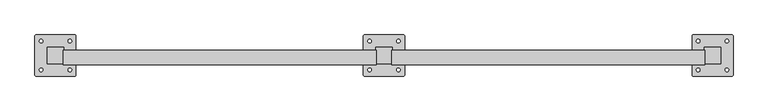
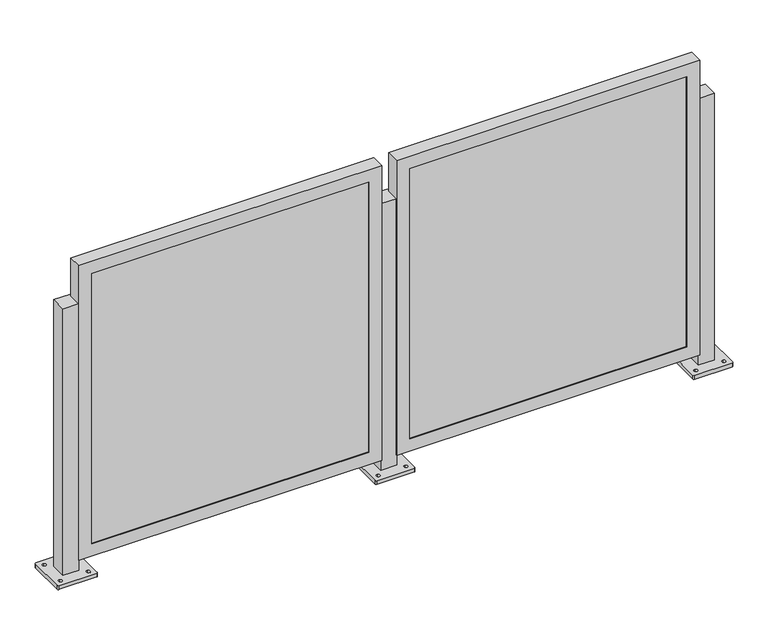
"""IFC4 building model written with IfcOpenShell, lengths in millimetres: railing geometry, Railing - Amico Architectural - Perforated Railing - Venetian."""

from ifc_helpers import new_model, si_unit, frame, origin, place, context, project, spatial, polyline, circle_curve, outline, extrude, faceted_brep, source, transform, mapped, element, save
from ifc_brep_helpers import plane_surface, cylinder_surface, revolved_surface, advanced_brep


def railing_542db5f6(model_context):
    return source(origin(), model_context, "Body", "SolidModel", [
        advanced_brep(
        [(-11298.0306556, -6822.178618, 914.4), (-11298.0306556, -6872.978618, 914.4), (-11247.2306556, -6872.978618, 914.4), (-11247.2306556, -6822.178618, 914.4), (-11336.1306557, -6907.903577, 0.0), (-11336.1306557, -6787.2536591, 0.0), (-11332.9556276, -6784.0786309, 0.0), (-11212.3056836, -6784.0786309, 0.0), (-11209.1306554, -6787.2536591, 0.0), (-11209.1306554, -6907.903577, 0.0), (-11212.3056836, -6911.0786052, 0.0), (-11332.9556276, -6911.0786052, 0.0), (-11317.0806431, -6897.5848727, 0.0), (-11317.0806431, -6886.4723602, 0.0), (-11317.080654, -6808.6848683, 0.0), (-11317.080654, -6797.5723867, 0.0), (-11228.1806422, -6897.5848711, 0.0), (-11228.1806422, -6886.4723605, 0.0), (-11228.1806531, -6808.6848668, 0.0), (-11228.1806531, -6797.572387, 0.0), (-11298.0306556, -6822.178618, 12.7), (-11298.0306556, -6872.978618, 12.7), (-11247.2306556, -6872.978618, 12.7), (-11247.2306556, -6822.178618, 12.7), (-11336.1306557, -6907.903577, 12.7), (-11332.9556276, -6911.0786052, 12.7), (-11212.3056836, -6911.0786052, 12.7), (-11209.1306554, -6907.903577, 12.7), (-11209.1306554, -6787.2536591, 12.7), (-11212.3056836, -6784.0786309, 12.7), (-11332.9556276, -6784.0786309, 12.7), (-11336.1306557, -6787.2536591, 12.7), (-11317.0806431, -6897.5848727, 12.7), (-11317.0806431, -6886.4723602, 12.7), (-11317.080654, -6808.6848683, 12.7), (-11317.080654, -6797.5723867, 12.7), (-11228.1806422, -6897.5848711, 12.7), (-11228.1806422, -6886.4723605, 12.7), (-11228.1806531, -6808.6848668, 12.7), (-11228.1806531, -6797.572387, 12.7)],
        [
            (0, 1),
            (1, 2),
            (2, 3),
            (3, 0),
            (4, 5),
            (5, 6, circle_curve(frame((-11332.9556276, -6787.2536591, 0.0), z_axis=(0.0, 0.0, -1.0), x_axis=(0.0, 1.0, 0.0)), 3.1750282)),
            (6, 7),
            (7, 8, circle_curve(frame((-11212.3056836, -6787.2536591, 0.0), z_axis=(0.0, 0.0, -1.0), x_axis=(0.0, 1.0, 0.0)), 3.1750282)),
            (8, 9),
            (9, 10, circle_curve(frame((-11212.3056836, -6907.903577, 0.0), z_axis=(0.0, 0.0, -1.0), x_axis=(0.0, 1.0, 0.0)), 3.1750282)),
            (10, 11),
            (11, 4, circle_curve(frame((-11332.9556276, -6907.903577, 0.0), z_axis=(0.0, 0.0, -1.0), x_axis=(0.0, 1.0, 0.0)), 3.1750282)),
            (12, 13, circle_curve(frame((-11317.0806431, -6892.0286164, 0.0), z_axis=(0.0, 0.0, 1.0), x_axis=(0.0, 1.0, 0.0)), 5.5562562)),
            (13, 12, circle_curve(frame((-11317.0806431, -6892.0286164, 0.0), z_axis=(0.0, 0.0, 1.0), x_axis=(0.0, 1.0, 0.0)), 5.5562562)),
            (14, 15, circle_curve(frame((-11317.080654, -6803.1286275, 0.0), z_axis=(0.0, 0.0, 1.0), x_axis=(0.0, 1.0, 0.0)), 5.5562408)),
            (15, 14, circle_curve(frame((-11317.080654, -6803.1286275, 0.0), z_axis=(0.0, 0.0, 1.0), x_axis=(0.0, 1.0, 0.0)), 5.5562408)),
            (16, 17, circle_curve(frame((-11228.1806422, -6892.0286158, 0.0), z_axis=(0.0, 0.0, 1.0), x_axis=(0.0, 1.0, 0.0)), 5.5562553)),
            (17, 16, circle_curve(frame((-11228.1806422, -6892.0286158, 0.0), z_axis=(0.0, 0.0, 1.0), x_axis=(0.0, 1.0, 0.0)), 5.5562553)),
            (18, 19, circle_curve(frame((-11228.1806531, -6803.1286269, 0.0), z_axis=(0.0, 0.0, 1.0), x_axis=(0.0, 1.0, 0.0)), 5.5562399)),
            (19, 18, circle_curve(frame((-11228.1806531, -6803.1286269, 0.0), z_axis=(0.0, 0.0, 1.0), x_axis=(0.0, 1.0, 0.0)), 5.5562399)),
            (0, 20),
            (20, 21),
            (21, 1),
            (21, 22),
            (22, 2),
            (22, 23),
            (23, 3),
            (23, 20),
            (24, 25, circle_curve(frame((-11332.9556276, -6907.903577, 12.7), z_axis=(0.0, 0.0, 1.0), x_axis=(0.0, 1.0, 0.0)), 3.1750282)),
            (25, 26),
            (26, 27, circle_curve(frame((-11212.3056836, -6907.903577, 12.7), z_axis=(0.0, 0.0, 1.0), x_axis=(0.0, 1.0, 0.0)), 3.1750282)),
            (27, 28),
            (28, 29, circle_curve(frame((-11212.3056836, -6787.2536591, 12.7), z_axis=(0.0, 0.0, 1.0), x_axis=(0.0, 1.0, 0.0)), 3.1750282)),
            (29, 30),
            (30, 31, circle_curve(frame((-11332.9556276, -6787.2536591, 12.7), z_axis=(0.0, 0.0, 1.0), x_axis=(0.0, 1.0, 0.0)), 3.1750282)),
            (31, 24),
            (32, 33, circle_curve(frame((-11317.0806431, -6892.0286164, 12.7), z_axis=(0.0, 0.0, -1.0), x_axis=(0.0, 1.0, 0.0)), 5.5562562)),
            (33, 32, circle_curve(frame((-11317.0806431, -6892.0286164, 12.7), z_axis=(0.0, 0.0, -1.0), x_axis=(0.0, 1.0, 0.0)), 5.5562562)),
            (34, 35, circle_curve(frame((-11317.080654, -6803.1286275, 12.7), z_axis=(0.0, 0.0, -1.0), x_axis=(0.0, 1.0, 0.0)), 5.5562408)),
            (35, 34, circle_curve(frame((-11317.080654, -6803.1286275, 12.7), z_axis=(0.0, 0.0, -1.0), x_axis=(0.0, 1.0, 0.0)), 5.5562408)),
            (36, 37, circle_curve(frame((-11228.1806422, -6892.0286158, 12.7), z_axis=(0.0, 0.0, -1.0), x_axis=(0.0, 1.0, 0.0)), 5.5562553)),
            (37, 36, circle_curve(frame((-11228.1806422, -6892.0286158, 12.7), z_axis=(0.0, 0.0, -1.0), x_axis=(0.0, 1.0, 0.0)), 5.5562553)),
            (38, 39, circle_curve(frame((-11228.1806531, -6803.1286269, 12.7), z_axis=(0.0, 0.0, -1.0), x_axis=(0.0, 1.0, 0.0)), 5.5562399)),
            (39, 38, circle_curve(frame((-11228.1806531, -6803.1286269, 12.7), z_axis=(0.0, 0.0, -1.0), x_axis=(0.0, 1.0, 0.0)), 5.5562399)),
            (24, 4),
            (11, 25),
            (10, 26),
            (9, 27),
            (8, 28),
            (7, 29),
            (6, 30),
            (5, 31),
            (32, 12),
            (13, 33),
            (34, 14),
            (15, 35),
            (36, 16),
            (17, 37),
            (38, 18),
            (19, 39),
        ],
        [
            plane_surface(frame((-11298.0306556, -6872.978618, 914.4), z_axis=(0.0, 0.0, 1.0), x_axis=(0.0, -1.0, 0.0))),
            plane_surface(frame((-11298.0306556, -6872.978618, 0.0), z_axis=(0.0, 0.0, -1.0), x_axis=(0.0, 1.0, 0.0))),
            plane_surface(frame((-11298.0306556, -6822.178618, 914.4), z_axis=(-1.0, 0.0, 0.0), x_axis=(0.0, 0.0, -1.0))),
            plane_surface(frame((-11298.0306556, -6872.978618, 914.4), z_axis=(0.0, -1.0, 0.0), x_axis=(0.0, 0.0, -1.0))),
            plane_surface(frame((-11247.2306556, -6872.978618, 914.4), z_axis=(1.0, 0.0, 0.0), x_axis=(0.0, 0.0, -1.0))),
            plane_surface(frame((-11247.2306556, -6822.178618, 914.4), z_axis=(0.0, 1.0, 0.0), x_axis=(0.0, 0.0, -1.0))),
            plane_surface(frame((-11332.9556276, -6904.7285488, 12.7), z_axis=(0.0, 0.0, 1.0), x_axis=(-1.0, 0.0, 0.0))),
            cylinder_surface(frame((-11332.9556276, -6907.903577, 0.0), z_axis=(0.0, 0.0, 1.0), x_axis=(0.0, 1.0, 0.0)), 3.1750282),
            plane_surface(frame((-11332.9556276, -6911.0786052, 12.7), z_axis=(1.1945386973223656e-12, -1.0, 0.0), x_axis=(0.0, 0.0, -1.0))),
            cylinder_surface(frame((-11212.3056836, -6907.903577, 0.0), z_axis=(0.0, 0.0, 1.0), x_axis=(0.0, 1.0, 0.0)), 3.1750282),
            plane_surface(frame((-11209.1306554, -6907.903577, 12.7), z_axis=(1.0, 0.0, 0.0), x_axis=(0.0, 0.0, -1.0))),
            cylinder_surface(frame((-11212.3056836, -6787.2536591, 0.0), z_axis=(0.0, 0.0, 1.0), x_axis=(0.0, 1.0, 0.0)), 3.1750282),
            plane_surface(frame((-11212.3056836, -6784.0786309, 12.7), z_axis=(-1.1946088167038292e-12, 1.0, 0.0), x_axis=(0.0, 0.0, -1.0))),
            cylinder_surface(frame((-11332.9556276, -6787.2536591, 0.0), z_axis=(0.0, 0.0, 1.0), x_axis=(0.0, 1.0, 0.0)), 3.1750282),
            plane_surface(frame((-11336.1306557, -6787.2536591, 12.7), z_axis=(-1.0, 0.0, 0.0), x_axis=(0.0, 0.0, -1.0))),
            revolved_surface(polyline([(-11317.0806431, -6886.4723602, 0.0), (-11317.0806431, -6886.4723602, 12.7)]), (-11317.0806431, -6892.0286164, 0.0), (0.0, 0.0, -1.0)),
            revolved_surface(polyline([(-11317.080654, -6797.572386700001, 0.0), (-11317.080654, -6797.572386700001, 12.7)]), (-11317.080654, -6803.1286275, 0.0), (0.0, 0.0, -1.0)),
            revolved_surface(polyline([(-11228.1806422, -6886.4723605, 0.0), (-11228.1806422, -6886.4723605, 12.7)]), (-11228.1806422, -6892.0286158, 0.0), (0.0, 0.0, -1.0)),
            revolved_surface(polyline([(-11228.1806531, -6797.572387, 0.0), (-11228.1806531, -6797.572387, 12.7)]), (-11228.1806531, -6803.1286269, 0.0), (0.0, 0.0, -1.0)),
        ],
        [
            (0, [[1, 2, 3, 4]]),
            (1, [[5, 6, 7, 8, 9, 10, 11, 12], [13, 14], [15, 16], [17, 18], [19, 20]]),
            (2, [[-1, 21, 22, 23]]),
            (3, [[-2, -23, 24, 25]]),
            (4, [[-3, -25, 26, 27]]),
            (5, [[-4, -27, 28, -21]]),
            (6, [[29, 30, 31, 32, 33, 34, 35, 36], [-22, -28, -26, -24], [37, 38], [39, 40], [41, 42], [43, 44]]),
            (7, [[-29, 45, -12, 46]]),
            (8, [[-30, -46, -11, 47]]),
            (9, [[-31, -47, -10, 48]]),
            (10, [[-32, -48, -9, 49]]),
            (11, [[-33, -49, -8, 50]]),
            (12, [[-34, -50, -7, 51]]),
            (13, [[-35, -51, -6, 52]]),
            (14, [[-36, -52, -5, -45]]),
            (15, [[-37, 53, -14, 54]]),
            (15, [[-38, -54, -13, -53]]),
            (16, [[-39, 55, -16, 56]]),
            (16, [[-40, -56, -15, -55]]),
            (17, [[-41, 57, -18, 58]]),
            (17, [[-42, -58, -17, -57]]),
            (18, [[-43, 59, -20, 60]]),
            (18, [[-44, -60, -19, -59]]),
        ],
    ),
        faceted_brep([(-12264.435109, -6875.721818, 47.625), (-11296.060109, -6875.721818, 47.625), (-11296.060109, -6875.721818, 1044.575), (-12264.435109, -6875.721818, 1044.575), (-12223.160109, -6875.721818, 1003.3), (-11337.335109, -6875.721818, 1003.3), (-11337.335109, -6875.721818, 88.9), (-12223.160109, -6875.721818, 88.9), (-12223.160109, -6872.978618, 1003.3), (-12223.160109, -6872.978618, 88.9), (-12264.435109, -6831.8485215, 1044.575), (-12264.435109, -6831.8485215, 47.625), (-12261.260109, -6831.8485215, 1041.4), (-12261.260109, -6872.978618, 1041.4), (-12261.260109, -6872.978618, 50.8), (-12261.260109, -6831.8485215, 50.8), (-11337.335109, -6872.978618, 88.9), (-11296.060109, -6831.8485215, 47.625), (-11299.235109, -6872.978618, 50.8), (-11299.235109, -6831.8485215, 50.8), (-11337.335109, -6872.978618, 1003.3), (-11296.060109, -6831.8485215, 1044.575), (-11299.235109, -6872.978618, 1041.4), (-11299.235109, -6831.8485215, 1041.4)], [[[0, 1, 2, 3], [4, 5, 6, 7]], [[8, 4, 7, 9]], [[3, 10, 11, 0]], [[12, 13, 14, 15]], [[9, 7, 6, 16]], [[0, 11, 17, 1]], [[15, 14, 18, 19]], [[16, 6, 5, 20]], [[1, 17, 21, 2]], [[19, 18, 22, 23]], [[20, 5, 4, 8]], [[10, 21, 17, 11], [15, 19, 23, 12]], [[2, 21, 10, 3]], [[13, 22, 18, 14], [9, 16, 20, 8]], [[23, 22, 13, 12]]]),
        extrude(outline(polyline([(-12261.260109, -6863.453618), (-11299.235109, -6863.453618), (-11299.235109, -6872.978618), (-12261.260109, -6872.978618), (-12261.260109, -6863.453618)])), frame((0.0, 0.0, 50.8), z_axis=(0.0, 0.0, 1.0), x_axis=(1.0, 0.0, 0.0)), (0.0, 0.0, 1.0), 990.6),
        advanced_brep(
        [(-12314.0306556, -6822.178618, 914.4), (-12314.0306556, -6872.978618, 914.4), (-12263.2306556, -6872.978618, 914.4), (-12263.2306556, -6822.178618, 914.4), (-12352.1306557, -6907.903577, 0.0), (-12352.1306557, -6787.2536591, 0.0), (-12348.9556276, -6784.0786309, 0.0), (-12228.3056836, -6784.0786309, 0.0), (-12225.1306554, -6787.2536591, 0.0), (-12225.1306554, -6907.903577, 0.0), (-12228.3056836, -6911.0786052, 0.0), (-12348.9556276, -6911.0786052, 0.0), (-12333.0806431, -6897.5848727, 0.0), (-12333.0806431, -6886.4723602, 0.0), (-12333.080654, -6808.6848683, 0.0), (-12333.080654, -6797.5723867, 0.0), (-12244.1806422, -6897.5848711, 0.0), (-12244.1806422, -6886.4723605, 0.0), (-12244.1806531, -6808.6848668, 0.0), (-12244.1806531, -6797.572387, 0.0), (-12314.0306556, -6822.178618, 12.7), (-12314.0306556, -6872.978618, 12.7), (-12263.2306556, -6872.978618, 12.7), (-12263.2306556, -6822.178618, 12.7), (-12352.1306557, -6907.903577, 12.7), (-12348.9556276, -6911.0786052, 12.7), (-12228.3056836, -6911.0786052, 12.7), (-12225.1306554, -6907.903577, 12.7), (-12225.1306554, -6787.2536591, 12.7), (-12228.3056836, -6784.0786309, 12.7), (-12348.9556276, -6784.0786309, 12.7), (-12352.1306557, -6787.2536591, 12.7), (-12333.0806431, -6897.5848727, 12.7), (-12333.0806431, -6886.4723602, 12.7), (-12333.080654, -6808.6848683, 12.7), (-12333.080654, -6797.5723867, 12.7), (-12244.1806422, -6897.5848711, 12.7), (-12244.1806422, -6886.4723605, 12.7), (-12244.1806531, -6808.6848668, 12.7), (-12244.1806531, -6797.572387, 12.7)],
        [
            (0, 1),
            (1, 2),
            (2, 3),
            (3, 0),
            (4, 5),
            (5, 6, circle_curve(frame((-12348.9556276, -6787.2536591, 0.0), z_axis=(0.0, 0.0, -1.0), x_axis=(0.0, 1.0, 0.0)), 3.1750282)),
            (6, 7),
            (7, 8, circle_curve(frame((-12228.3056836, -6787.2536591, 0.0), z_axis=(0.0, 0.0, -1.0), x_axis=(0.0, 1.0, 0.0)), 3.1750282)),
            (8, 9),
            (9, 10, circle_curve(frame((-12228.3056836, -6907.903577, 0.0), z_axis=(0.0, 0.0, -1.0), x_axis=(0.0, 1.0, 0.0)), 3.1750282)),
            (10, 11),
            (11, 4, circle_curve(frame((-12348.9556276, -6907.903577, 0.0), z_axis=(0.0, 0.0, -1.0), x_axis=(0.0, 1.0, 0.0)), 3.1750282)),
            (12, 13, circle_curve(frame((-12333.0806431, -6892.0286164, 0.0), z_axis=(0.0, 0.0, 1.0), x_axis=(0.0, 1.0, 0.0)), 5.5562562)),
            (13, 12, circle_curve(frame((-12333.0806431, -6892.0286164, 0.0), z_axis=(0.0, 0.0, 1.0), x_axis=(0.0, 1.0, 0.0)), 5.5562562)),
            (14, 15, circle_curve(frame((-12333.080654, -6803.1286275, 0.0), z_axis=(0.0, 0.0, 1.0), x_axis=(0.0, 1.0, 0.0)), 5.5562408)),
            (15, 14, circle_curve(frame((-12333.080654, -6803.1286275, 0.0), z_axis=(0.0, 0.0, 1.0), x_axis=(0.0, 1.0, 0.0)), 5.5562408)),
            (16, 17, circle_curve(frame((-12244.1806422, -6892.0286158, 0.0), z_axis=(0.0, 0.0, 1.0), x_axis=(0.0, 1.0, 0.0)), 5.5562553)),
            (17, 16, circle_curve(frame((-12244.1806422, -6892.0286158, 0.0), z_axis=(0.0, 0.0, 1.0), x_axis=(0.0, 1.0, 0.0)), 5.5562553)),
            (18, 19, circle_curve(frame((-12244.1806531, -6803.1286269, 0.0), z_axis=(0.0, 0.0, 1.0), x_axis=(0.0, 1.0, 0.0)), 5.5562399)),
            (19, 18, circle_curve(frame((-12244.1806531, -6803.1286269, 0.0), z_axis=(0.0, 0.0, 1.0), x_axis=(0.0, 1.0, 0.0)), 5.5562399)),
            (0, 20),
            (20, 21),
            (21, 1),
            (21, 22),
            (22, 2),
            (22, 23),
            (23, 3),
            (23, 20),
            (24, 25, circle_curve(frame((-12348.9556276, -6907.903577, 12.7), z_axis=(0.0, 0.0, 1.0), x_axis=(0.0, 1.0, 0.0)), 3.1750282)),
            (25, 26),
            (26, 27, circle_curve(frame((-12228.3056836, -6907.903577, 12.7), z_axis=(0.0, 0.0, 1.0), x_axis=(0.0, 1.0, 0.0)), 3.1750282)),
            (27, 28),
            (28, 29, circle_curve(frame((-12228.3056836, -6787.2536591, 12.7), z_axis=(0.0, 0.0, 1.0), x_axis=(0.0, 1.0, 0.0)), 3.1750282)),
            (29, 30),
            (30, 31, circle_curve(frame((-12348.9556276, -6787.2536591, 12.7), z_axis=(0.0, 0.0, 1.0), x_axis=(0.0, 1.0, 0.0)), 3.1750282)),
            (31, 24),
            (32, 33, circle_curve(frame((-12333.0806431, -6892.0286164, 12.7), z_axis=(0.0, 0.0, -1.0), x_axis=(0.0, 1.0, 0.0)), 5.5562562)),
            (33, 32, circle_curve(frame((-12333.0806431, -6892.0286164, 12.7), z_axis=(0.0, 0.0, -1.0), x_axis=(0.0, 1.0, 0.0)), 5.5562562)),
            (34, 35, circle_curve(frame((-12333.080654, -6803.1286275, 12.7), z_axis=(0.0, 0.0, -1.0), x_axis=(0.0, 1.0, 0.0)), 5.5562408)),
            (35, 34, circle_curve(frame((-12333.080654, -6803.1286275, 12.7), z_axis=(0.0, 0.0, -1.0), x_axis=(0.0, 1.0, 0.0)), 5.5562408)),
            (36, 37, circle_curve(frame((-12244.1806422, -6892.0286158, 12.7), z_axis=(0.0, 0.0, -1.0), x_axis=(0.0, 1.0, 0.0)), 5.5562553)),
            (37, 36, circle_curve(frame((-12244.1806422, -6892.0286158, 12.7), z_axis=(0.0, 0.0, -1.0), x_axis=(0.0, 1.0, 0.0)), 5.5562553)),
            (38, 39, circle_curve(frame((-12244.1806531, -6803.1286269, 12.7), z_axis=(0.0, 0.0, -1.0), x_axis=(0.0, 1.0, 0.0)), 5.5562399)),
            (39, 38, circle_curve(frame((-12244.1806531, -6803.1286269, 12.7), z_axis=(0.0, 0.0, -1.0), x_axis=(0.0, 1.0, 0.0)), 5.5562399)),
            (24, 4),
            (11, 25),
            (10, 26),
            (9, 27),
            (8, 28),
            (7, 29),
            (6, 30),
            (5, 31),
            (32, 12),
            (13, 33),
            (34, 14),
            (15, 35),
            (36, 16),
            (17, 37),
            (38, 18),
            (19, 39),
        ],
        [
            plane_surface(frame((-12314.0306556, -6872.978618, 914.4), z_axis=(0.0, 0.0, 1.0), x_axis=(0.0, -1.0, 0.0))),
            plane_surface(frame((-12314.0306556, -6872.978618, 0.0), z_axis=(0.0, 0.0, -1.0), x_axis=(0.0, 1.0, 0.0))),
            plane_surface(frame((-12314.0306556, -6822.178618, 914.4), z_axis=(-1.0, 0.0, 0.0), x_axis=(0.0, 0.0, -1.0))),
            plane_surface(frame((-12314.0306556, -6872.978618, 914.4), z_axis=(0.0, -1.0, 0.0), x_axis=(0.0, 0.0, -1.0))),
            plane_surface(frame((-12263.2306556, -6872.978618, 914.4), z_axis=(1.0, 0.0, 0.0), x_axis=(0.0, 0.0, -1.0))),
            plane_surface(frame((-12263.2306556, -6822.178618, 914.4), z_axis=(0.0, 1.0, 0.0), x_axis=(0.0, 0.0, -1.0))),
            plane_surface(frame((-12348.9556276, -6904.7285488, 12.7), z_axis=(0.0, 0.0, 1.0), x_axis=(-1.0, 0.0, 0.0))),
            cylinder_surface(frame((-12348.9556276, -6907.903577, 0.0), z_axis=(0.0, 0.0, 1.0), x_axis=(0.0, 1.0, 0.0)), 3.1750282),
            plane_surface(frame((-12348.9556276, -6911.0786052, 12.7), z_axis=(1.1945386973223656e-12, -1.0, 0.0), x_axis=(0.0, 0.0, -1.0))),
            cylinder_surface(frame((-12228.3056836, -6907.903577, 0.0), z_axis=(0.0, 0.0, 1.0), x_axis=(0.0, 1.0, 0.0)), 3.1750282),
            plane_surface(frame((-12225.1306554, -6907.903577, 12.7), z_axis=(1.0, 0.0, 0.0), x_axis=(0.0, 0.0, -1.0))),
            cylinder_surface(frame((-12228.3056836, -6787.2536591, 0.0), z_axis=(0.0, 0.0, 1.0), x_axis=(0.0, 1.0, 0.0)), 3.1750282),
            plane_surface(frame((-12228.3056836, -6784.0786309, 12.7), z_axis=(-1.1946088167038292e-12, 1.0, 0.0), x_axis=(0.0, 0.0, -1.0))),
            cylinder_surface(frame((-12348.9556276, -6787.2536591, 0.0), z_axis=(0.0, 0.0, 1.0), x_axis=(0.0, 1.0, 0.0)), 3.1750282),
            plane_surface(frame((-12352.1306557, -6787.2536591, 12.7), z_axis=(-1.0, 0.0, 0.0), x_axis=(0.0, 0.0, -1.0))),
            revolved_surface(polyline([(-12333.0806431, -6886.4723602, 0.0), (-12333.0806431, -6886.4723602, 12.7)]), (-12333.0806431, -6892.0286164, 0.0), (0.0, 0.0, -1.0)),
            revolved_surface(polyline([(-12333.080654, -6797.572386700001, 0.0), (-12333.080654, -6797.572386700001, 12.7)]), (-12333.080654, -6803.1286275, 0.0), (0.0, 0.0, -1.0)),
            revolved_surface(polyline([(-12244.1806422, -6886.4723605, 0.0), (-12244.1806422, -6886.4723605, 12.7)]), (-12244.1806422, -6892.0286158, 0.0), (0.0, 0.0, -1.0)),
            revolved_surface(polyline([(-12244.1806531, -6797.572387, 0.0), (-12244.1806531, -6797.572387, 12.7)]), (-12244.1806531, -6803.1286269, 0.0), (0.0, 0.0, -1.0)),
        ],
        [
            (0, [[1, 2, 3, 4]]),
            (1, [[5, 6, 7, 8, 9, 10, 11, 12], [13, 14], [15, 16], [17, 18], [19, 20]]),
            (2, [[-1, 21, 22, 23]]),
            (3, [[-2, -23, 24, 25]]),
            (4, [[-3, -25, 26, 27]]),
            (5, [[-4, -27, 28, -21]]),
            (6, [[29, 30, 31, 32, 33, 34, 35, 36], [-22, -28, -26, -24], [37, 38], [39, 40], [41, 42], [43, 44]]),
            (7, [[-29, 45, -12, 46]]),
            (8, [[-30, -46, -11, 47]]),
            (9, [[-31, -47, -10, 48]]),
            (10, [[-32, -48, -9, 49]]),
            (11, [[-33, -49, -8, 50]]),
            (12, [[-34, -50, -7, 51]]),
            (13, [[-35, -51, -6, 52]]),
            (14, [[-36, -52, -5, -45]]),
            (15, [[-37, 53, -14, 54]]),
            (15, [[-38, -54, -13, -53]]),
            (16, [[-39, 55, -16, 56]]),
            (16, [[-40, -56, -15, -55]]),
            (17, [[-41, 57, -18, 58]]),
            (17, [[-42, -58, -17, -57]]),
            (18, [[-43, 59, -20, 60]]),
            (18, [[-44, -60, -19, -59]]),
        ],
    ),
        faceted_brep([(-13280.435109, -6875.721818, 47.625), (-12312.060109, -6875.721818, 47.625), (-12312.060109, -6875.721818, 1044.575), (-13280.435109, -6875.721818, 1044.575), (-13239.160109, -6875.721818, 1003.3), (-12353.335109, -6875.721818, 1003.3), (-12353.335109, -6875.721818, 88.9), (-13239.160109, -6875.721818, 88.9), (-13239.160109, -6872.978618, 1003.3), (-13239.160109, -6872.978618, 88.9), (-13280.435109, -6831.8485215, 1044.575), (-13280.435109, -6831.8485215, 47.625), (-13277.260109, -6831.8485215, 1041.4), (-13277.260109, -6872.978618, 1041.4), (-13277.260109, -6872.978618, 50.8), (-13277.260109, -6831.8485215, 50.8), (-12353.335109, -6872.978618, 88.9), (-12312.060109, -6831.8485215, 47.625), (-12315.235109, -6872.978618, 50.8), (-12315.235109, -6831.8485215, 50.8), (-12353.335109, -6872.978618, 1003.3), (-12312.060109, -6831.8485215, 1044.575), (-12315.235109, -6872.978618, 1041.4), (-12315.235109, -6831.8485215, 1041.4)], [[[0, 1, 2, 3], [4, 5, 6, 7]], [[8, 4, 7, 9]], [[3, 10, 11, 0]], [[12, 13, 14, 15]], [[9, 7, 6, 16]], [[0, 11, 17, 1]], [[15, 14, 18, 19]], [[16, 6, 5, 20]], [[1, 17, 21, 2]], [[19, 18, 22, 23]], [[20, 5, 4, 8]], [[10, 21, 17, 11], [15, 19, 23, 12]], [[2, 21, 10, 3]], [[13, 22, 18, 14], [9, 16, 20, 8]], [[23, 22, 13, 12]]]),
        extrude(outline(polyline([(-13277.260109, -6863.453618), (-12315.235109, -6863.453618), (-12315.235109, -6872.978618), (-13277.260109, -6872.978618), (-13277.260109, -6863.453618)])), frame((0.0, 0.0, 50.8), z_axis=(0.0, 0.0, 1.0), x_axis=(1.0, 0.0, 0.0)), (0.0, 0.0, 1.0), 990.6),
        advanced_brep(
        [(-13330.0306556, -6822.178618, 914.4), (-13330.0306556, -6872.978618, 914.4), (-13279.2306556, -6872.978618, 914.4), (-13279.2306556, -6822.178618, 914.4), (-13368.1306557, -6907.903577, 0.0), (-13368.1306557, -6787.2536591, 0.0), (-13364.9556276, -6784.0786309, 0.0), (-13244.3056836, -6784.0786309, 0.0), (-13241.1306554, -6787.2536591, 0.0), (-13241.1306554, -6907.903577, 0.0), (-13244.3056836, -6911.0786052, 0.0), (-13364.9556276, -6911.0786052, 0.0), (-13349.0806431, -6897.5848727, 0.0), (-13349.0806431, -6886.4723602, 0.0), (-13349.080654, -6808.6848683, 0.0), (-13349.080654, -6797.5723867, 0.0), (-13260.1806422, -6897.5848711, 0.0), (-13260.1806422, -6886.4723605, 0.0), (-13260.1806531, -6808.6848668, 0.0), (-13260.1806531, -6797.572387, 0.0), (-13330.0306556, -6822.178618, 12.7), (-13330.0306556, -6872.978618, 12.7), (-13279.2306556, -6872.978618, 12.7), (-13279.2306556, -6822.178618, 12.7), (-13368.1306557, -6907.903577, 12.7), (-13364.9556276, -6911.0786052, 12.7), (-13244.3056836, -6911.0786052, 12.7), (-13241.1306554, -6907.903577, 12.7), (-13241.1306554, -6787.2536591, 12.7), (-13244.3056836, -6784.0786309, 12.7), (-13364.9556276, -6784.0786309, 12.7), (-13368.1306557, -6787.2536591, 12.7), (-13349.0806431, -6897.5848727, 12.7), (-13349.0806431, -6886.4723602, 12.7), (-13349.080654, -6808.6848683, 12.7), (-13349.080654, -6797.5723867, 12.7), (-13260.1806422, -6897.5848711, 12.7), (-13260.1806422, -6886.4723605, 12.7), (-13260.1806531, -6808.6848668, 12.7), (-13260.1806531, -6797.572387, 12.7)],
        [
            (0, 1),
            (1, 2),
            (2, 3),
            (3, 0),
            (4, 5),
            (5, 6, circle_curve(frame((-13364.9556276, -6787.2536591, 0.0), z_axis=(0.0, 0.0, -1.0), x_axis=(0.0, 1.0, 0.0)), 3.1750282)),
            (6, 7),
            (7, 8, circle_curve(frame((-13244.3056836, -6787.2536591, 0.0), z_axis=(0.0, 0.0, -1.0), x_axis=(0.0, 1.0, 0.0)), 3.1750282)),
            (8, 9),
            (9, 10, circle_curve(frame((-13244.3056836, -6907.903577, 0.0), z_axis=(0.0, 0.0, -1.0), x_axis=(0.0, 1.0, 0.0)), 3.1750282)),
            (10, 11),
            (11, 4, circle_curve(frame((-13364.9556276, -6907.903577, 0.0), z_axis=(0.0, 0.0, -1.0), x_axis=(0.0, 1.0, 0.0)), 3.1750282)),
            (12, 13, circle_curve(frame((-13349.0806431, -6892.0286164, 0.0), z_axis=(0.0, 0.0, 1.0), x_axis=(0.0, 1.0, 0.0)), 5.5562562)),
            (13, 12, circle_curve(frame((-13349.0806431, -6892.0286164, 0.0), z_axis=(0.0, 0.0, 1.0), x_axis=(0.0, 1.0, 0.0)), 5.5562562)),
            (14, 15, circle_curve(frame((-13349.080654, -6803.1286275, 0.0), z_axis=(0.0, 0.0, 1.0), x_axis=(0.0, 1.0, 0.0)), 5.5562408)),
            (15, 14, circle_curve(frame((-13349.080654, -6803.1286275, 0.0), z_axis=(0.0, 0.0, 1.0), x_axis=(0.0, 1.0, 0.0)), 5.5562408)),
            (16, 17, circle_curve(frame((-13260.1806422, -6892.0286158, 0.0), z_axis=(0.0, 0.0, 1.0), x_axis=(0.0, 1.0, 0.0)), 5.5562553)),
            (17, 16, circle_curve(frame((-13260.1806422, -6892.0286158, 0.0), z_axis=(0.0, 0.0, 1.0), x_axis=(0.0, 1.0, 0.0)), 5.5562553)),
            (18, 19, circle_curve(frame((-13260.1806531, -6803.1286269, 0.0), z_axis=(0.0, 0.0, 1.0), x_axis=(0.0, 1.0, 0.0)), 5.5562399)),
            (19, 18, circle_curve(frame((-13260.1806531, -6803.1286269, 0.0), z_axis=(0.0, 0.0, 1.0), x_axis=(0.0, 1.0, 0.0)), 5.5562399)),
            (0, 20),
            (20, 21),
            (21, 1),
            (21, 22),
            (22, 2),
            (22, 23),
            (23, 3),
            (23, 20),
            (24, 25, circle_curve(frame((-13364.9556276, -6907.903577, 12.7), z_axis=(0.0, 0.0, 1.0), x_axis=(0.0, 1.0, 0.0)), 3.1750282)),
            (25, 26),
            (26, 27, circle_curve(frame((-13244.3056836, -6907.903577, 12.7), z_axis=(0.0, 0.0, 1.0), x_axis=(0.0, 1.0, 0.0)), 3.1750282)),
            (27, 28),
            (28, 29, circle_curve(frame((-13244.3056836, -6787.2536591, 12.7), z_axis=(0.0, 0.0, 1.0), x_axis=(0.0, 1.0, 0.0)), 3.1750282)),
            (29, 30),
            (30, 31, circle_curve(frame((-13364.9556276, -6787.2536591, 12.7), z_axis=(0.0, 0.0, 1.0), x_axis=(0.0, 1.0, 0.0)), 3.1750282)),
            (31, 24),
            (32, 33, circle_curve(frame((-13349.0806431, -6892.0286164, 12.7), z_axis=(0.0, 0.0, -1.0), x_axis=(0.0, 1.0, 0.0)), 5.5562562)),
            (33, 32, circle_curve(frame((-13349.0806431, -6892.0286164, 12.7), z_axis=(0.0, 0.0, -1.0), x_axis=(0.0, 1.0, 0.0)), 5.5562562)),
            (34, 35, circle_curve(frame((-13349.080654, -6803.1286275, 12.7), z_axis=(0.0, 0.0, -1.0), x_axis=(0.0, 1.0, 0.0)), 5.5562408)),
            (35, 34, circle_curve(frame((-13349.080654, -6803.1286275, 12.7), z_axis=(0.0, 0.0, -1.0), x_axis=(0.0, 1.0, 0.0)), 5.5562408)),
            (36, 37, circle_curve(frame((-13260.1806422, -6892.0286158, 12.7), z_axis=(0.0, 0.0, -1.0), x_axis=(0.0, 1.0, 0.0)), 5.5562553)),
            (37, 36, circle_curve(frame((-13260.1806422, -6892.0286158, 12.7), z_axis=(0.0, 0.0, -1.0), x_axis=(0.0, 1.0, 0.0)), 5.5562553)),
            (38, 39, circle_curve(frame((-13260.1806531, -6803.1286269, 12.7), z_axis=(0.0, 0.0, -1.0), x_axis=(0.0, 1.0, 0.0)), 5.5562399)),
            (39, 38, circle_curve(frame((-13260.1806531, -6803.1286269, 12.7), z_axis=(0.0, 0.0, -1.0), x_axis=(0.0, 1.0, 0.0)), 5.5562399)),
            (24, 4),
            (11, 25),
            (10, 26),
            (9, 27),
            (8, 28),
            (7, 29),
            (6, 30),
            (5, 31),
            (32, 12),
            (13, 33),
            (34, 14),
            (15, 35),
            (36, 16),
            (17, 37),
            (38, 18),
            (19, 39),
        ],
        [
            plane_surface(frame((-13330.0306556, -6872.978618, 914.4), z_axis=(0.0, 0.0, 1.0), x_axis=(0.0, -1.0, 0.0))),
            plane_surface(frame((-13330.0306556, -6872.978618, 0.0), z_axis=(0.0, 0.0, -1.0), x_axis=(0.0, 1.0, 0.0))),
            plane_surface(frame((-13330.0306556, -6822.178618, 914.4), z_axis=(-1.0, 0.0, 0.0), x_axis=(0.0, 0.0, -1.0))),
            plane_surface(frame((-13330.0306556, -6872.978618, 914.4), z_axis=(0.0, -1.0, 0.0), x_axis=(0.0, 0.0, -1.0))),
            plane_surface(frame((-13279.2306556, -6872.978618, 914.4), z_axis=(1.0, 0.0, 0.0), x_axis=(0.0, 0.0, -1.0))),
            plane_surface(frame((-13279.2306556, -6822.178618, 914.4), z_axis=(0.0, 1.0, 0.0), x_axis=(0.0, 0.0, -1.0))),
            plane_surface(frame((-13364.9556276, -6904.7285488, 12.7), z_axis=(0.0, 0.0, 1.0), x_axis=(-1.0, 0.0, 0.0))),
            cylinder_surface(frame((-13364.9556276, -6907.903577, 0.0), z_axis=(0.0, 0.0, 1.0), x_axis=(0.0, 1.0, 0.0)), 3.1750282),
            plane_surface(frame((-13364.9556276, -6911.0786052, 12.7), z_axis=(1.1945386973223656e-12, -1.0, 0.0), x_axis=(0.0, 0.0, -1.0))),
            cylinder_surface(frame((-13244.3056836, -6907.903577, 0.0), z_axis=(0.0, 0.0, 1.0), x_axis=(0.0, 1.0, 0.0)), 3.1750282),
            plane_surface(frame((-13241.1306554, -6907.903577, 12.7), z_axis=(1.0, 0.0, 0.0), x_axis=(0.0, 0.0, -1.0))),
            cylinder_surface(frame((-13244.3056836, -6787.2536591, 0.0), z_axis=(0.0, 0.0, 1.0), x_axis=(0.0, 1.0, 0.0)), 3.1750282),
            plane_surface(frame((-13244.3056836, -6784.0786309, 12.7), z_axis=(-1.1946088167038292e-12, 1.0, 0.0), x_axis=(0.0, 0.0, -1.0))),
            cylinder_surface(frame((-13364.9556276, -6787.2536591, 0.0), z_axis=(0.0, 0.0, 1.0), x_axis=(0.0, 1.0, 0.0)), 3.1750282),
            plane_surface(frame((-13368.1306557, -6787.2536591, 12.7), z_axis=(-1.0, 0.0, 0.0), x_axis=(0.0, 0.0, -1.0))),
            revolved_surface(polyline([(-13349.0806431, -6886.4723602, 0.0), (-13349.0806431, -6886.4723602, 12.7)]), (-13349.0806431, -6892.0286164, 0.0), (0.0, 0.0, -1.0)),
            revolved_surface(polyline([(-13349.080654, -6797.572386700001, 0.0), (-13349.080654, -6797.572386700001, 12.7)]), (-13349.080654, -6803.1286275, 0.0), (0.0, 0.0, -1.0)),
            revolved_surface(polyline([(-13260.1806422, -6886.4723605, 0.0), (-13260.1806422, -6886.4723605, 12.7)]), (-13260.1806422, -6892.0286158, 0.0), (0.0, 0.0, -1.0)),
            revolved_surface(polyline([(-13260.1806531, -6797.572387, 0.0), (-13260.1806531, -6797.572387, 12.7)]), (-13260.1806531, -6803.1286269, 0.0), (0.0, 0.0, -1.0)),
        ],
        [
            (0, [[1, 2, 3, 4]]),
            (1, [[5, 6, 7, 8, 9, 10, 11, 12], [13, 14], [15, 16], [17, 18], [19, 20]]),
            (2, [[-1, 21, 22, 23]]),
            (3, [[-2, -23, 24, 25]]),
            (4, [[-3, -25, 26, 27]]),
            (5, [[-4, -27, 28, -21]]),
            (6, [[29, 30, 31, 32, 33, 34, 35, 36], [-22, -28, -26, -24], [37, 38], [39, 40], [41, 42], [43, 44]]),
            (7, [[-29, 45, -12, 46]]),
            (8, [[-30, -46, -11, 47]]),
            (9, [[-31, -47, -10, 48]]),
            (10, [[-32, -48, -9, 49]]),
            (11, [[-33, -49, -8, 50]]),
            (12, [[-34, -50, -7, 51]]),
            (13, [[-35, -51, -6, 52]]),
            (14, [[-36, -52, -5, -45]]),
            (15, [[-37, 53, -14, 54]]),
            (15, [[-38, -54, -13, -53]]),
            (16, [[-39, 55, -16, 56]]),
            (16, [[-40, -56, -15, -55]]),
            (17, [[-41, 57, -18, 58]]),
            (17, [[-42, -58, -17, -57]]),
            (18, [[-43, 59, -20, 60]]),
            (18, [[-44, -60, -19, -59]]),
        ],
    ),
    ])


if __name__ == "__main__":
    model = new_model("IFC4")
    model_context = context("Model", 3, world=origin())
    ifc_project = project(units=[si_unit("LENGTHUNIT", "METRE", prefix="MILLI")], contexts=[model_context])
    site = spatial("IfcSite", under=ifc_project)
    building = spatial("IfcBuilding", under=site)
    placement = place(None, origin())
    railing_shape = railing_542db5f6(model_context)
    element("IfcRailing", 1, ObjectType="Railing - Amico Architectural - Perforated Railing - Venetian", at=placement, inside=building, context=model_context, shape_type="MappedRepresentation", body=[
        mapped(railing_shape, transform((0.0, 0.0, 0.0), x_axis=(1.0, 0.0, 0.0), y_axis=(0.0, 1.0, 0.0), z_axis=(0.0, 0.0, 1.0))),
    ])
    save(model, "model.ifc")
